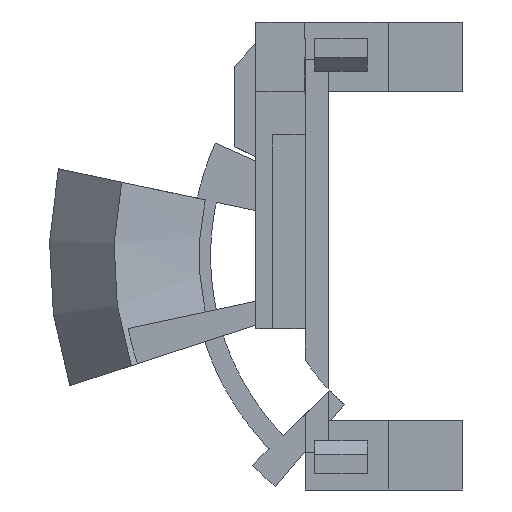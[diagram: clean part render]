
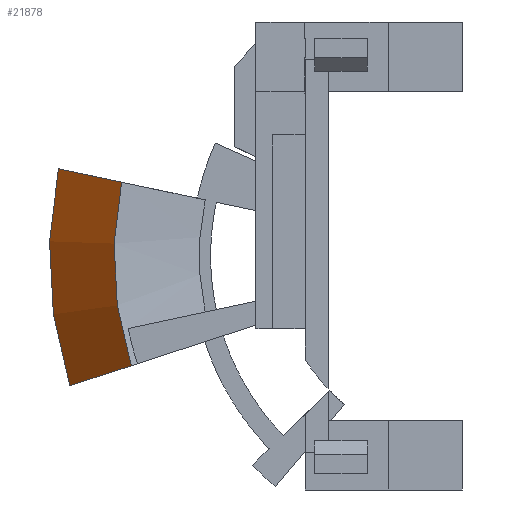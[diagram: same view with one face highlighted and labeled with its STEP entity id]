
A CAD part, front view. The second image highlights one B-rep face of the part: STEP entity #21878.
In plain terms, the highlighted conical face has half-angle 45 degrees and reference radius 22 mm.
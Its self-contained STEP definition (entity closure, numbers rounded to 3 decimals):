
#10567 = PLANE('',#10568);
#10568 = AXIS2_PLACEMENT_3D('',#10569,#10570,#10571);
#10569 = CARTESIAN_POINT('',(-0.76,40.,2.287));
#10570 = DIRECTION('',(-0.208,-0.,-0.978));
#10571 = DIRECTION('',(-0.978,0.,0.208));
#10667 = VERTEX_POINT('',#10668);
#10668 = CARTESIAN_POINT('',(-11.519,10.,4.574));
#10681 = CONICAL_SURFACE('',#10682,16.5,1.114);
#10682 = AXIS2_PLACEMENT_3D('',#10683,#10684,#10685);
#10683 = CARTESIAN_POINT('',(10.,12.7,0.));
#10684 = DIRECTION('',(-0.,-1.,-0.));
#10685 = DIRECTION('',(-1.,0.,0.));
#10692 = EDGE_CURVE('',#10667,#10693,#10695,.T.);
#10693 = VERTEX_POINT('',#10694);
#10694 = CARTESIAN_POINT('',(-15.432,14.,5.406));
#10695 = SURFACE_CURVE('',#10696,(#10700,#10706),.PCURVE_S1.);
#10696 = LINE('',#10697,#10698);
#10697 = CARTESIAN_POINT('',(10.,-12.,0.));
#10698 = VECTOR('',#10699,1.);
#10699 = DIRECTION('',(-0.692,0.707,0.147));
#10700 = PCURVE('',#10567,#10701);
#10701 = DEFINITIONAL_REPRESENTATION('',(#10702),#10705);
#10702 = B_SPLINE_CURVE_WITH_KNOTS('',1,(#10703,#10704),.UNSPECIFIED.,
  .F.,.F.,(2,2),(31.113,36.77),
  .PIECEWISE_BEZIER_KNOTS.);
#10703 = CARTESIAN_POINT('',(11.,-30.));
#10704 = CARTESIAN_POINT('',(15.,-26.));
#10705 = ( GEOMETRIC_REPRESENTATION_CONTEXT(2) 
PARAMETRIC_REPRESENTATION_CONTEXT() REPRESENTATION_CONTEXT('2D SPACE',''
  ) );
#10706 = PCURVE('',#10707,#10712);
#10707 = CONICAL_SURFACE('',#10708,22.,0.785);
#10708 = AXIS2_PLACEMENT_3D('',#10709,#10710,#10711);
#10709 = CARTESIAN_POINT('',(10.,10.,0.));
#10710 = DIRECTION('',(0.,1.,0.));
#10711 = DIRECTION('',(-1.,0.,0.));
#10712 = DEFINITIONAL_REPRESENTATION('',(#10713),#10716);
#10713 = B_SPLINE_CURVE_WITH_KNOTS('',1,(#10714,#10715),.UNSPECIFIED.,
  .F.,.F.,(2,2),(31.113,36.77),
  .PIECEWISE_BEZIER_KNOTS.);
#10714 = CARTESIAN_POINT('',(6.493,0.));
#10715 = CARTESIAN_POINT('',(6.493,4.));
#10716 = ( GEOMETRIC_REPRESENTATION_CONTEXT(2) 
PARAMETRIC_REPRESENTATION_CONTEXT() REPRESENTATION_CONTEXT('2D SPACE',''
  ) );
#10733 = CYLINDRICAL_SURFACE('',#10734,26.);
#10734 = AXIS2_PLACEMENT_3D('',#10735,#10736,#10737);
#10735 = CARTESIAN_POINT('',(10.,14.,0.));
#10736 = DIRECTION('',(0.,1.,0.));
#10737 = DIRECTION('',(-1.,0.,0.));
#10874 = EDGE_CURVE('',#10667,#10875,#10877,.T.);
#10875 = VERTEX_POINT('',#10876);
#10876 = CARTESIAN_POINT('',(-10.923,10.,-6.798));
#10877 = SURFACE_CURVE('',#10878,(#10883,#10890),.PCURVE_S1.);
#10878 = CIRCLE('',#10879,22.);
#10879 = AXIS2_PLACEMENT_3D('',#10880,#10881,#10882);
#10880 = CARTESIAN_POINT('',(10.,10.,0.));
#10881 = DIRECTION('',(0.,-1.,0.));
#10882 = DIRECTION('',(-0.978,0.,0.208));
#10883 = PCURVE('',#10681,#10884);
#10884 = DEFINITIONAL_REPRESENTATION('',(#10885),#10889);
#10885 = LINE('',#10886,#10887);
#10886 = CARTESIAN_POINT('',(-6.493,2.7));
#10887 = VECTOR('',#10888,1.);
#10888 = DIRECTION('',(1.,-0.));
#10889 = ( GEOMETRIC_REPRESENTATION_CONTEXT(2) 
PARAMETRIC_REPRESENTATION_CONTEXT() REPRESENTATION_CONTEXT('2D SPACE',''
  ) );
#10890 = PCURVE('',#10707,#10891);
#10891 = DEFINITIONAL_REPRESENTATION('',(#10892),#10896);
#10892 = LINE('',#10893,#10894);
#10893 = CARTESIAN_POINT('',(6.493,0.));
#10894 = VECTOR('',#10895,1.);
#10895 = DIRECTION('',(-1.,-0.));
#10896 = ( GEOMETRIC_REPRESENTATION_CONTEXT(2) 
PARAMETRIC_REPRESENTATION_CONTEXT() REPRESENTATION_CONTEXT('2D SPACE',''
  ) );
#10913 = PLANE('',#10914);
#10914 = AXIS2_PLACEMENT_3D('',#10915,#10916,#10917);
#10915 = CARTESIAN_POINT('',(-10.923,12.6,-6.798));
#10916 = DIRECTION('',(-0.309,0.,0.951));
#10917 = DIRECTION('',(0.951,0.,0.309));
#11154 = VERTEX_POINT('',#11155);
#11155 = CARTESIAN_POINT('',(-14.727,14.,-8.034));
#11175 = EDGE_CURVE('',#10875,#11154,#11176,.T.);
#11176 = SURFACE_CURVE('',#11177,(#11181,#11188),.PCURVE_S1.);
#11177 = LINE('',#11178,#11179);
#11178 = CARTESIAN_POINT('',(10.,-12.,0.));
#11179 = VECTOR('',#11180,1.);
#11180 = DIRECTION('',(-0.672,0.707,-0.219));
#11181 = PCURVE('',#10913,#11182);
#11182 = DEFINITIONAL_REPRESENTATION('',(#11183),#11187);
#11183 = LINE('',#11184,#11185);
#11184 = CARTESIAN_POINT('',(22.,-24.6));
#11185 = VECTOR('',#11186,1.);
#11186 = DIRECTION('',(-0.707,0.707));
#11187 = ( GEOMETRIC_REPRESENTATION_CONTEXT(2) 
PARAMETRIC_REPRESENTATION_CONTEXT() REPRESENTATION_CONTEXT('2D SPACE',''
  ) );
#11188 = PCURVE('',#10707,#11189);
#11189 = DEFINITIONAL_REPRESENTATION('',(#11190),#11193);
#11190 = B_SPLINE_CURVE_WITH_KNOTS('',1,(#11191,#11192),.UNSPECIFIED.,
  .F.,.F.,(2,2),(31.113,36.77),
  .PIECEWISE_BEZIER_KNOTS.);
#11191 = CARTESIAN_POINT('',(5.969,0.));
#11192 = CARTESIAN_POINT('',(5.969,4.));
#11193 = ( GEOMETRIC_REPRESENTATION_CONTEXT(2) 
PARAMETRIC_REPRESENTATION_CONTEXT() REPRESENTATION_CONTEXT('2D SPACE',''
  ) );
#21878 = ADVANCED_FACE('',(#21879),#10707,.T.);
#21879 = FACE_BOUND('',#21880,.T.);
#21880 = EDGE_LOOP('',(#21881,#21903,#21904,#21905));
#21881 = ORIENTED_EDGE('',*,*,#21882,.F.);
#21882 = EDGE_CURVE('',#11154,#10693,#21883,.T.);
#21883 = SURFACE_CURVE('',#21884,(#21889,#21896),.PCURVE_S1.);
#21884 = CIRCLE('',#21885,26.);
#21885 = AXIS2_PLACEMENT_3D('',#21886,#21887,#21888);
#21886 = CARTESIAN_POINT('',(10.,14.,0.));
#21887 = DIRECTION('',(0.,1.,0.));
#21888 = DIRECTION('',(-0.951,0.,-0.309));
#21889 = PCURVE('',#10707,#21890);
#21890 = DEFINITIONAL_REPRESENTATION('',(#21891),#21895);
#21891 = LINE('',#21892,#21893);
#21892 = CARTESIAN_POINT('',(5.969,4.));
#21893 = VECTOR('',#21894,1.);
#21894 = DIRECTION('',(1.,0.));
#21895 = ( GEOMETRIC_REPRESENTATION_CONTEXT(2) 
PARAMETRIC_REPRESENTATION_CONTEXT() REPRESENTATION_CONTEXT('2D SPACE',''
  ) );
#21896 = PCURVE('',#10733,#21897);
#21897 = DEFINITIONAL_REPRESENTATION('',(#21898),#21902);
#21898 = LINE('',#21899,#21900);
#21899 = CARTESIAN_POINT('',(5.969,0.));
#21900 = VECTOR('',#21901,1.);
#21901 = DIRECTION('',(1.,0.));
#21902 = ( GEOMETRIC_REPRESENTATION_CONTEXT(2) 
PARAMETRIC_REPRESENTATION_CONTEXT() REPRESENTATION_CONTEXT('2D SPACE',''
  ) );
#21903 = ORIENTED_EDGE('',*,*,#11175,.F.);
#21904 = ORIENTED_EDGE('',*,*,#10874,.F.);
#21905 = ORIENTED_EDGE('',*,*,#10692,.T.);
